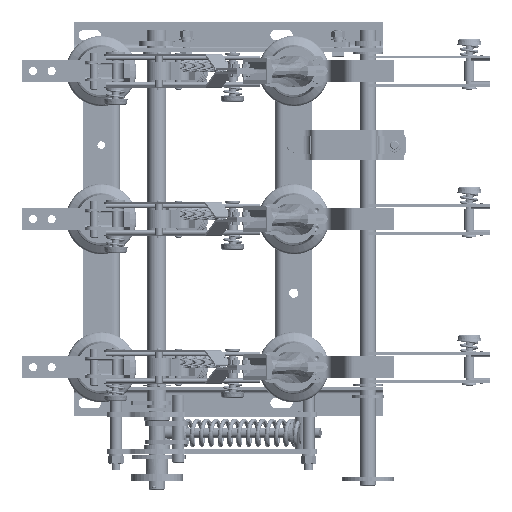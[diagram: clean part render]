
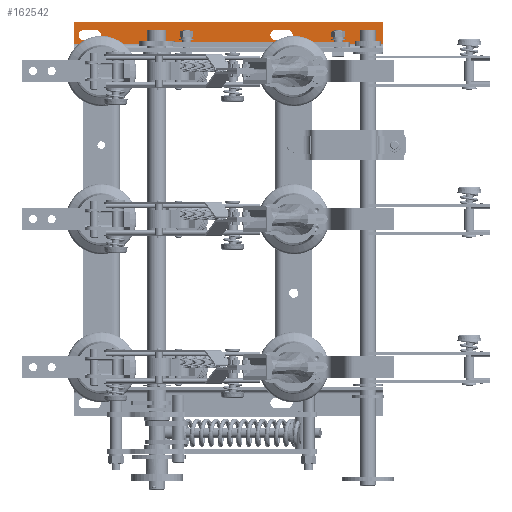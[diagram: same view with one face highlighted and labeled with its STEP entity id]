
A CAD part, left-side view. The second image highlights one B-rep face of the part: STEP entity #162542.
In plain terms, the highlighted planar face has unit normal (-1, 0, 0).
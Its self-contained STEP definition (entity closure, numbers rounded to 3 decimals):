
#803 = VERTEX_POINT ( 'NONE', #165299 ) ;
#1893 = CARTESIAN_POINT ( 'NONE',  ( 65., -210.5, 241.5 ) ) ;
#6909 = EDGE_CURVE ( 'NONE', #94151, #155627, #73224, .T. ) ;
#8229 = AXIS2_PLACEMENT_3D ( 'NONE', #105759, #122877, #20945 ) ;
#11638 = CARTESIAN_POINT ( 'NONE',  ( 65., -210.5, 248.5 ) ) ;
#14755 = VERTEX_POINT ( 'NONE', #67719 ) ;
#15127 = CARTESIAN_POINT ( 'NONE',  ( 65., 61.5, 236. ) ) ;
#16271 = LINE ( 'NONE', #217276, #151918 ) ;
#16802 = CARTESIAN_POINT ( 'NONE',  ( 65., -355., 236. ) ) ;
#17484 = VERTEX_POINT ( 'NONE', #173403 ) ;
#19523 = LINE ( 'NONE', #44694, #110013 ) ;
#20945 = DIRECTION ( 'NONE',  ( 0., 1., 0. ) ) ;
#22063 = EDGE_LOOP ( 'NONE', ( #167200, #103110, #133622, #37392, #162412 ) ) ;
#23984 = CARTESIAN_POINT ( 'NONE',  ( 65., -355., 266. ) ) ;
#26127 = DIRECTION ( 'NONE',  ( 0., -1., 0. ) ) ;
#26913 = PLANE ( 'NONE',  #163244 ) ;
#29411 = VERTEX_POINT ( 'NONE', #23984 ) ;
#30205 = DIRECTION ( 'NONE',  ( 0., 1., 0. ) ) ;
#31465 = EDGE_CURVE ( 'NONE', #14755, #94151, #128915, .T. ) ;
#36236 = CIRCLE ( 'NONE', #98746, 7. ) ;
#36239 = LINE ( 'NONE', #90304, #161260 ) ;
#36863 = CARTESIAN_POINT ( 'NONE',  ( 65., 48.5, 248.5 ) ) ;
#37392 = ORIENTED_EDGE ( 'NONE', *, *, #106563, .F. ) ;
#44694 = CARTESIAN_POINT ( 'NONE',  ( 65., 32.5, 241.5 ) ) ;
#44695 = CARTESIAN_POINT ( 'NONE',  ( 65., -203.5, 248.5 ) ) ;
#44998 = EDGE_CURVE ( 'NONE', #155795, #17484, #172619, .T. ) ;
#45490 = CARTESIAN_POINT ( 'NONE',  ( 65., 32.5, 248.5 ) ) ;
#51673 = VERTEX_POINT ( 'NONE', #80796 ) ;
#54890 = CARTESIAN_POINT ( 'NONE',  ( 65., -226.5, 255.5 ) ) ;
#61878 = CARTESIAN_POINT ( 'NONE',  ( 65., -146.75, 217.924 ) ) ;
#62959 = DIRECTION ( 'NONE',  ( -1., 0., 0. ) ) ;
#63945 = ORIENTED_EDGE ( 'NONE', *, *, #117648, .T. ) ;
#65891 = CARTESIAN_POINT ( 'NONE',  ( 65., 32.5, 255.5 ) ) ;
#67719 = CARTESIAN_POINT ( 'NONE',  ( 65., -226.5, 255.5 ) ) ;
#69049 = VECTOR ( 'NONE', #190499, 1000. ) ;
#69590 = CARTESIAN_POINT ( 'NONE',  ( 65., 32.5, 241.5 ) ) ;
#70316 = DIRECTION ( 'NONE',  ( 0., 0., 1. ) ) ;
#70474 = VERTEX_POINT ( 'NONE', #1893 ) ;
#73224 = CIRCLE ( 'NONE', #8229, 7. ) ;
#73979 = LINE ( 'NONE', #65891, #127135 ) ;
#74366 = VERTEX_POINT ( 'NONE', #15127 ) ;
#78784 = CARTESIAN_POINT ( 'NONE',  ( 65., 48.5, 248.5 ) ) ;
#80606 = ORIENTED_EDGE ( 'NONE', *, *, #146997, .F. ) ;
#80796 = CARTESIAN_POINT ( 'NONE',  ( 65., 61.5, 266. ) ) ;
#84335 = FACE_BOUND ( 'NONE', #22063, .T. ) ;
#90304 = CARTESIAN_POINT ( 'NONE',  ( 65., -355., 266. ) ) ;
#92527 = CIRCLE ( 'NONE', #138362, 7. ) ;
#94151 = VERTEX_POINT ( 'NONE', #196653 ) ;
#94595 = DIRECTION ( 'NONE',  ( 0., 1., 0. ) ) ;
#94939 = VERTEX_POINT ( 'NONE', #221021 ) ;
#96799 = AXIS2_PLACEMENT_3D ( 'NONE', #158461, #177002, #175558 ) ;
#96830 = DIRECTION ( 'NONE',  ( 0., -1., 0. ) ) ;
#97150 = DIRECTION ( 'NONE',  ( 0., 1., 0. ) ) ;
#98247 = CIRCLE ( 'NONE', #189723, 7. ) ;
#98746 = AXIS2_PLACEMENT_3D ( 'NONE', #45490, #112460, #198713 ) ;
#101432 = EDGE_LOOP ( 'NONE', ( #170309, #80606, #135705, #157716, #195036 ) ) ;
#103110 = ORIENTED_EDGE ( 'NONE', *, *, #179244, .F. ) ;
#105297 = DIRECTION ( 'NONE',  ( -1., 0., 0. ) ) ;
#105759 = CARTESIAN_POINT ( 'NONE',  ( 65., -210.5, 248.5 ) ) ;
#106563 = EDGE_CURVE ( 'NONE', #803, #155795, #98247, .T. ) ;
#108904 = DIRECTION ( 'NONE',  ( 0., 1., 0. ) ) ;
#110013 = VECTOR ( 'NONE', #26127, 1000. ) ;
#110433 = VECTOR ( 'NONE', #70316, 1000. ) ;
#112460 = DIRECTION ( 'NONE',  ( -1., 0., 0. ) ) ;
#117648 = EDGE_CURVE ( 'NONE', #51673, #74366, #183396, .T. ) ;
#119658 = VERTEX_POINT ( 'NONE', #16802 ) ;
#121710 = VERTEX_POINT ( 'NONE', #69590 ) ;
#122597 = DIRECTION ( 'NONE',  ( 0., 1., 0. ) ) ;
#122877 = DIRECTION ( 'NONE',  ( -1., 0., 0. ) ) ;
#127135 = VECTOR ( 'NONE', #30205, 1000. ) ;
#127293 = ORIENTED_EDGE ( 'NONE', *, *, #141553, .F. ) ;
#128915 = LINE ( 'NONE', #54890, #163478 ) ;
#130856 = DIRECTION ( 'NONE',  ( -1., 0., 0. ) ) ;
#132394 = DIRECTION ( 'NONE',  ( 0., 1., 0. ) ) ;
#133622 = ORIENTED_EDGE ( 'NONE', *, *, #44998, .F. ) ;
#134345 = LINE ( 'NONE', #154322, #110433 ) ;
#135705 = ORIENTED_EDGE ( 'NONE', *, *, #186494, .F. ) ;
#138007 = DIRECTION ( 'NONE',  ( 0., 1., 0. ) ) ;
#138362 = AXIS2_PLACEMENT_3D ( 'NONE', #11638, #62959, #97150 ) ;
#139020 = CARTESIAN_POINT ( 'NONE',  ( 65., 55.5, 248.5 ) ) ;
#141553 = EDGE_CURVE ( 'NONE', #119658, #74366, #16271, .T. ) ;
#145566 = FACE_OUTER_BOUND ( 'NONE', #190340, .T. ) ;
#146983 = EDGE_CURVE ( 'NONE', #121710, #182310, #36236, .T. ) ;
#146997 = EDGE_CURVE ( 'NONE', #70474, #94939, #203792, .T. ) ;
#151918 = VECTOR ( 'NONE', #132394, 1000. ) ;
#153485 = FACE_BOUND ( 'NONE', #101432, .T. ) ;
#154322 = CARTESIAN_POINT ( 'NONE',  ( 65., -355., 169.847 ) ) ;
#155483 = CARTESIAN_POINT ( 'NONE',  ( 65., 61.5, 169.847 ) ) ;
#155627 = VERTEX_POINT ( 'NONE', #44695 ) ;
#155795 = VERTEX_POINT ( 'NONE', #139020 ) ;
#156636 = ORIENTED_EDGE ( 'NONE', *, *, #188130, .T. ) ;
#157716 = ORIENTED_EDGE ( 'NONE', *, *, #6909, .F. ) ;
#158461 = CARTESIAN_POINT ( 'NONE',  ( 65., -226.5, 248.5 ) ) ;
#161260 = VECTOR ( 'NONE', #108904, 1000. ) ;
#162412 = ORIENTED_EDGE ( 'NONE', *, *, #186558, .F. ) ;
#162542 = ADVANCED_FACE ( 'NONE', ( #145566, #84335, #153485 ), #26913, .T. ) ;
#163244 = AXIS2_PLACEMENT_3D ( 'NONE', #61878, #164475, #94595 ) ;
#163478 = VECTOR ( 'NONE', #122597, 1000. ) ;
#164475 = DIRECTION ( 'NONE',  ( -1., 0., 0. ) ) ;
#165299 = CARTESIAN_POINT ( 'NONE',  ( 65., 48.5, 255.5 ) ) ;
#166022 = ORIENTED_EDGE ( 'NONE', *, *, #177366, .T. ) ;
#167200 = ORIENTED_EDGE ( 'NONE', *, *, #146983, .F. ) ;
#167337 = EDGE_CURVE ( 'NONE', #94939, #14755, #202879, .T. ) ;
#170309 = ORIENTED_EDGE ( 'NONE', *, *, #167337, .F. ) ;
#172619 = CIRCLE ( 'NONE', #173001, 7. ) ;
#173001 = AXIS2_PLACEMENT_3D ( 'NONE', #78784, #130856, #216470 ) ;
#173403 = CARTESIAN_POINT ( 'NONE',  ( 65., 48.5, 241.5 ) ) ;
#175558 = DIRECTION ( 'NONE',  ( 0., 1., 0. ) ) ;
#177002 = DIRECTION ( 'NONE',  ( -1., 0., 0. ) ) ;
#177366 = EDGE_CURVE ( 'NONE', #119658, #29411, #134345, .T. ) ;
#179244 = EDGE_CURVE ( 'NONE', #17484, #121710, #19523, .T. ) ;
#180079 = CARTESIAN_POINT ( 'NONE',  ( 65., -226.5, 241.5 ) ) ;
#182310 = VERTEX_POINT ( 'NONE', #189095 ) ;
#183396 = LINE ( 'NONE', #155483, #69049 ) ;
#185179 = VECTOR ( 'NONE', #96830, 1000. ) ;
#186494 = EDGE_CURVE ( 'NONE', #155627, #70474, #92527, .T. ) ;
#186558 = EDGE_CURVE ( 'NONE', #182310, #803, #73979, .T. ) ;
#188130 = EDGE_CURVE ( 'NONE', #29411, #51673, #36239, .T. ) ;
#189095 = CARTESIAN_POINT ( 'NONE',  ( 65., 32.5, 255.5 ) ) ;
#189723 = AXIS2_PLACEMENT_3D ( 'NONE', #36863, #105297, #138007 ) ;
#190340 = EDGE_LOOP ( 'NONE', ( #127293, #166022, #156636, #63945 ) ) ;
#190499 = DIRECTION ( 'NONE',  ( 0., 0., -1. ) ) ;
#195036 = ORIENTED_EDGE ( 'NONE', *, *, #31465, .F. ) ;
#196653 = CARTESIAN_POINT ( 'NONE',  ( 65., -210.5, 255.5 ) ) ;
#198713 = DIRECTION ( 'NONE',  ( 0., 1., 0. ) ) ;
#202879 = CIRCLE ( 'NONE', #96799, 7. ) ;
#203792 = LINE ( 'NONE', #180079, #185179 ) ;
#216470 = DIRECTION ( 'NONE',  ( 0., 1., 0. ) ) ;
#217276 = CARTESIAN_POINT ( 'NONE',  ( 65., -146.75, 236. ) ) ;
#221021 = CARTESIAN_POINT ( 'NONE',  ( 65., -226.5, 241.5 ) ) ;
